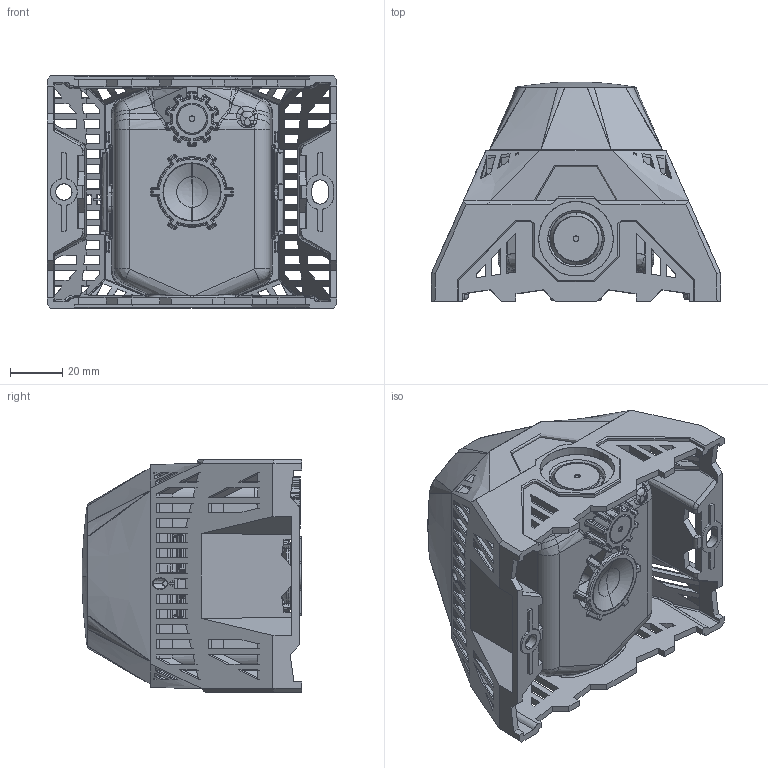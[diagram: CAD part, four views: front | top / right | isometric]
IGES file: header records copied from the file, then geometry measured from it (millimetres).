
Start section: SolidWorks IGES file using analytic representation for surfaces
Global section: file name: O:\PDG\Technik\Dokumentation\Betriebsanleitungen_BA\0862xxxxx\086200019 - PA (L)1-R\für 3D-Volumenmodell\PA L-1-R_30462-100.IGS; native system: SolidWorks 2021; preprocessor: SolidWorks 2021; author: PDG_MM; date: 231110.153941; units: millimetre
Bounding box: 110.84 x 83.95 x 89 mm (x, y, z)
Surface area: 96650.6 mm2 (no closed solid volume)
Topology: 0 solids, 0 shells, 3154 faces, 22970 edges, 22757 vertices
Faces by surface type: bspline 2111, revolution 1043
